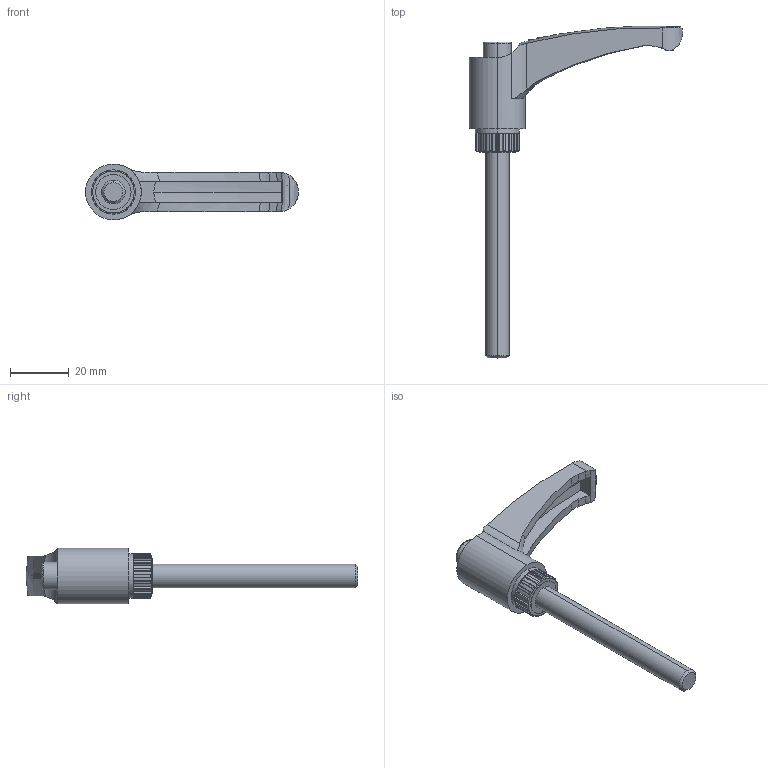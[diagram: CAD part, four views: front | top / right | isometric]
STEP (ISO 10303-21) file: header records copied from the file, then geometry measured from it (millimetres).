
FILE_DESCRIPTION (( 'STEP AP214' ), '1' );
FILE_NAME ('2.9015 Kiinnitysvipu M8 L70 ulkokierteellä.STEP', '2025-09-10T08:12:24', ( '' ), ( '' ), 'SwSTEP 2.0', 'SolidWorks 2025', '' );
FILE_SCHEMA (( 'AUTOMOTIVE_DESIGN' ));
Length unit declared in the file: millimetre
Products named in the file (1): 2.9015 Kiinnitysvipu M8 L70 ulkokierteellä
Bounding box: 72.5 x 112.97 x 19 mm (x, y, z)
Volume: 17399.6 mm3; surface area: 7660.2 mm2
Topology: 1 solids, 1 shells, 171 faces, 481 edges, 307 vertices
Faces by surface type: cylinder 67, plane 54, cone 24, bspline 14, torus 12
Entity records: 6167 total; most frequent: CARTESIAN_POINT 1828, ORIENTED_EDGE 942, DIRECTION 859, EDGE_CURVE 471, AXIS2_PLACEMENT_3D 330, VERTEX_POINT 307, VECTOR 199, LINE 199
